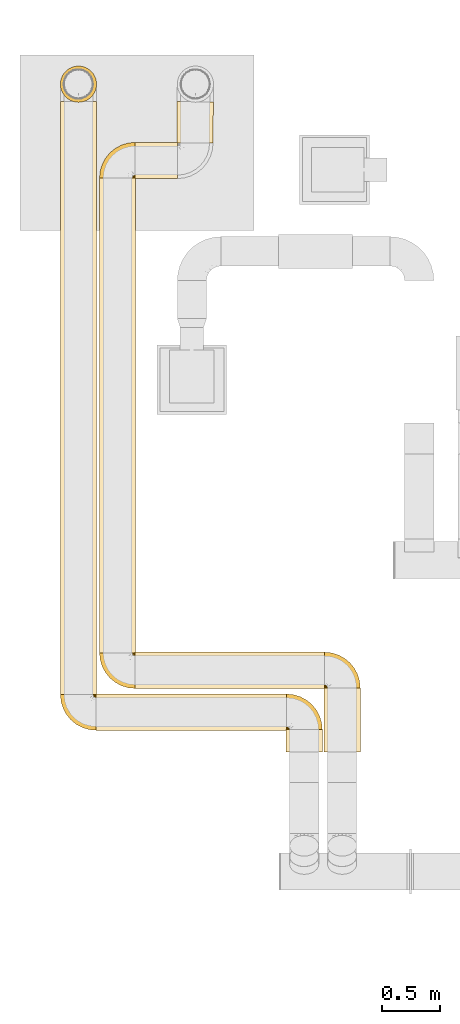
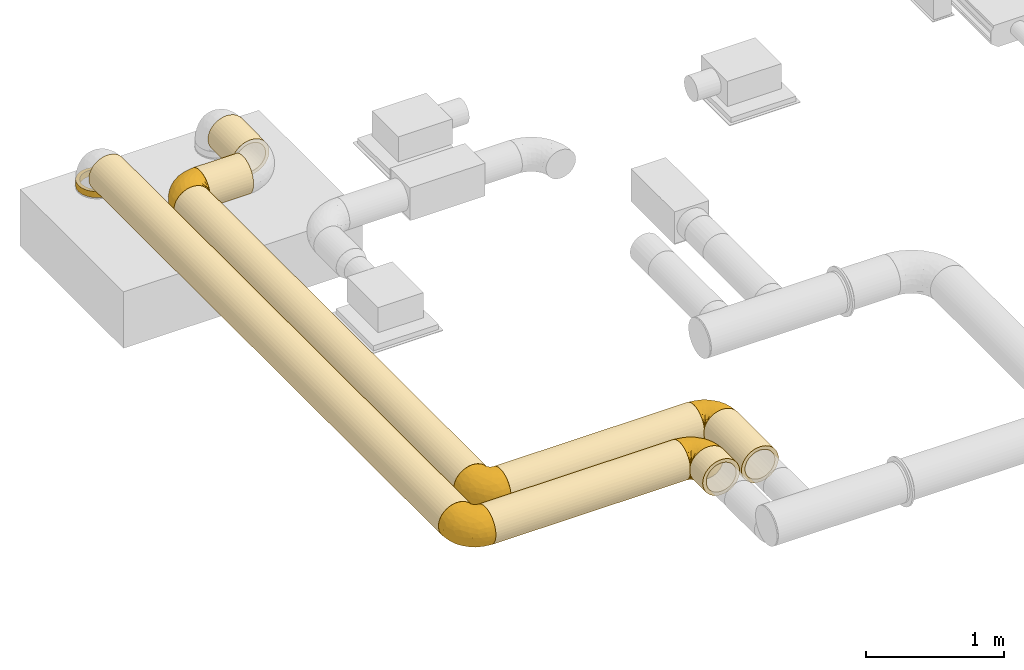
# One storey, part 1 of 36: 14 coverings.
"""IFC2X3 building model written with IfcOpenShell, lengths in millimetres."""

import ifcopenshell
import ifcopenshell.guid

model = None  # the IFC model being written
_history = None  # IfcOwnerHistory: only IFC2X3 demands one
_inside = {}  # id of a spatial element -> (the spatial element, [elements in it])
_under = {}  # id of a project, library or spatial element -> (it, [spatial elements below it])
_declared = {}  # id of a project -> (the project, [libraries it declares])
_typed = {}  # id of a type object -> (the type object, [elements of that type])
_made_of = {}  # id of a material, layer set ... -> (it, [elements and type objects made of it])


def new_model(schema):
    """Start an empty IFC model of exactly this schema.

    Asked for "IFC4X3", IfcOpenShell would pick the latest addendum, in which some entities
    have other attributes; the version numbers below select the first issue.
    IFC2X3 requires an IfcOwnerHistory on every rooted entity: one is made here for all.
    """
    global model, _history
    if schema == "IFC4X3":
        model = ifcopenshell.file(schema_version=(4, 3, 0, 0))
    else:
        model = ifcopenshell.file(schema=schema)
    _inside.clear()
    _under.clear()
    _declared.clear()
    _typed.clear()
    _made_of.clear()
    _history = None
    if model.schema == "IFC2X3":
        org = make("IfcOrganization", Name="unknown")
        user = make(
            "IfcPersonAndOrganization",
            ThePerson=make("IfcPerson", FamilyName="unknown"),
            TheOrganization=org,
        )
        app = make(
            "IfcApplication",
            ApplicationDeveloper=org,
            Version="unknown",
            ApplicationFullName="unknown",
            ApplicationIdentifier="unknown",
        )
        _history = make(
            "IfcOwnerHistory",
            OwningUser=user,
            OwningApplication=app,
            ChangeAction="ADDED",
            CreationDate=0,
        )
    return model


def make(cls, **values):
    """One entity of the class cls with the attributes given. An attribute that is None is left unset."""
    return model.create_entity(
        cls, **{name: value for name, value in values.items() if value is not None}
    )


def entity(cls, *values):
    """Any entity or typed value of the class cls, its attributes in the order of the schema. None: left unset."""
    e = model.create_entity(cls)
    for i, value in enumerate(values):
        if value is not None:
            e[i] = value
    return e


def rooted(cls, **values):
    """An entity with a GlobalId (a new one), such as an element, a storey or a relation."""
    return make(cls, GlobalId=ifcopenshell.guid.new(), OwnerHistory=_history, **values)


def si_unit(unit_type, name, prefix=None):
    """IfcSIUnit, for example si_unit("LENGTHUNIT", "METRE", prefix="MILLI")."""
    return make("IfcSIUnit", UnitType=unit_type, Prefix=prefix, Name=name)


def converted_unit(unit_type, name, factor, base, dimensions=None, offset=None):
    """IfcConversionBasedUnit, such as the inch: factor (a typed value) times the base unit."""
    return make(
        "IfcConversionBasedUnit"
        if offset is None
        else "IfcConversionBasedUnitWithOffset",
        ConversionOffset=offset,
        Dimensions=None
        if dimensions is None
        else entity("IfcDimensionalExponents", *dimensions),
        UnitType=unit_type,
        Name=name,
        ConversionFactor=make(
            "IfcMeasureWithUnit", ValueComponent=factor, UnitComponent=base
        ),
    )


def derived_unit(unit_type, elements):
    """IfcDerivedUnit: a product of units, each with its exponent."""
    return make(
        "IfcDerivedUnit",
        Elements=[
            make("IfcDerivedUnitElement", Unit=unit, Exponent=power)
            for unit, power in elements
        ],
        UnitType=unit_type,
    )


def assignment(units):
    """IfcUnitAssignment: the units of a project."""
    return None if units is None else make("IfcUnitAssignment", Units=units)


def point(xyz):
    """IfcCartesianPoint."""
    return None if xyz is None else make("IfcCartesianPoint", Coordinates=xyz)


def direction(xyz):
    """IfcDirection."""
    return None if xyz is None else make("IfcDirection", DirectionRatios=xyz)


def frame(location, z_axis=None, x_axis=None):
    """IfcAxis2Placement3D, a coordinate frame: its origin and axes. An axis left out is left unset."""
    return make(
        "IfcAxis2Placement3D",
        Location=point(location),
        Axis=direction(z_axis),
        RefDirection=direction(x_axis),
    )


def frame_2d(location, x_axis=None):
    """IfcAxis2Placement2D, a coordinate frame in the plane: its origin and x axis."""
    return make(
        "IfcAxis2Placement2D", Location=point(location), RefDirection=direction(x_axis)
    )


def origin_with_axes():
    """The frame at (0, 0, 0) with the z axis (0, 0, 1) and the x axis (1, 0, 0) written out."""
    return frame((0.0, 0.0, 0.0), z_axis=(0.0, 0.0, 1.0), x_axis=(1.0, 0.0, 0.0))


def origin_2d_with_axis():
    """The frame at (0, 0) in the plane with the x axis (1, 0) written out."""
    return frame_2d((0.0, 0.0), x_axis=(1.0, 0.0))


def place(relative_to, where):
    """IfcLocalPlacement: puts the frame where relative to a parent placement (None: the world)."""
    return make(
        "IfcLocalPlacement", PlacementRelTo=relative_to, RelativePlacement=where
    )


def context(
    kind, dimensions, precision=None, world=None, true_north=None, identifier=None
):
    """IfcGeometricRepresentationContext, for example the 3D "Model" context."""
    return make(
        "IfcGeometricRepresentationContext",
        ContextIdentifier=identifier,
        ContextType=kind,
        CoordinateSpaceDimension=dimensions,
        Precision=precision,
        WorldCoordinateSystem=world,
        TrueNorth=true_north,
    )


def subcontext(parent, identifier, kind, view, scale=None):
    """IfcGeometricRepresentationSubContext, for example "Body" below "Model"."""
    return make(
        "IfcGeometricRepresentationSubContext",
        ContextIdentifier=identifier,
        ContextType=kind,
        ParentContext=parent,
        TargetScale=scale,
        TargetView=view,
    )


def project(units=None, contexts=None):
    """IfcProject with its units and contexts."""
    return rooted(
        "IfcProject",
        Name="project",
        RepresentationContexts=contexts,
        UnitsInContext=assignment(units),
    )


def spatial(cls, under=None, at=None, **own):
    """A site, building, storey or space (cls), placed at a placement, below another one or the project."""
    s = rooted(cls, ObjectPlacement=at, **own)
    if under is not None:
        _under.setdefault(under.id(), (under, []))[1].append(s)
    return s


def profile(cls, at=None, kind="AREA", **sizes):
    """A parametric profile (cls). Its sizes go by their IFC names, for example OverallWidth=200.0."""
    return make(cls, ProfileType=kind, Position=at, **sizes)


def hollow_circle(**sizes):
    """IfcCircleHollowProfileDef."""
    return profile("IfcCircleHollowProfileDef", **sizes)


def extrude(swept, where, along, depth):
    """IfcExtrudedAreaSolid: the profile swept, set in the frame where, extruded along a direction by depth."""
    return make(
        "IfcExtrudedAreaSolid",
        SweptArea=swept,
        Position=where,
        ExtrudedDirection=direction(along),
        Depth=depth,
    )


def faces_of(points, faces, orient=None, outer=None):
    """IfcFace entities. A face is a list of loops; a loop is a list of indices into points, from 0.

    orient and outer hold one flag for each loop. By default every Orientation is true, the
    first loop of a face is its IfcFaceOuterBound and the others are IfcFaceBound.
    """
    made = []
    for i, loops in enumerate(faces):
        bounds = []
        for j, loop in enumerate(loops):
            is_outer = j == 0 if outer is None else outer[i][j]
            bounds.append(
                make(
                    "IfcFaceOuterBound" if is_outer else "IfcFaceBound",
                    Bound=make("IfcPolyLoop", Polygon=[points[k] for k in loop]),
                    Orientation=True if orient is None else orient[i][j],
                )
            )
        made.append(make("IfcFace", Bounds=bounds))
    return made


def open_shell(faces, orient=None, outer=None):
    """The faces of one IfcOpenShell. surface_model builds it on its shared points."""
    return ("IfcOpenShell", faces, orient, outer)


def surface_model(cls, points, shells):
    """IfcFaceBasedSurfaceModel or IfcShellBasedSurfaceModel (cls): surfaces that need not close."""
    shared = [point(p) for p in points]
    made = [make(c, CfsFaces=faces_of(shared, fs, o, b)) for c, fs, o, b in shells]
    if cls == "IfcFaceBasedSurfaceModel":
        return make(cls, FbsmFaces=made)
    return make(cls, SbsmBoundary=made)


def shape(context_of_items, identifier, shape_type, items):
    """IfcShapeRepresentation: the items that make up one representation, for example the "Body"."""
    return make(
        "IfcShapeRepresentation",
        ContextOfItems=context_of_items,
        RepresentationIdentifier=identifier,
        RepresentationType=shape_type,
        Items=items,
    )


def source(mapping_origin, context_of_items, identifier, shape_type, items):
    """IfcRepresentationMap: a shape defined once, which mapped items show again and again."""
    return make(
        "IfcRepresentationMap",
        MappingOrigin=mapping_origin,
        MappedRepresentation=shape(context_of_items, identifier, shape_type, items),
    )


def transform(
    local_origin,
    x_axis=None,
    y_axis=None,
    z_axis=None,
    scale=None,
    scale2=None,
    scale3=None,
    uniform=True,
):
    """IfcCartesianTransformationOperator3D, or its non-uniform kind. x_axis, y_axis, z_axis: its Axis1, 2, 3."""
    if uniform:
        return make(
            "IfcCartesianTransformationOperator3D",
            Axis1=direction(x_axis),
            Axis2=direction(y_axis),
            LocalOrigin=point(local_origin),
            Scale=scale,
            Axis3=direction(z_axis),
        )
    return make(
        "IfcCartesianTransformationOperator3DnonUniform",
        Axis1=direction(x_axis),
        Axis2=direction(y_axis),
        LocalOrigin=point(local_origin),
        Scale=scale,
        Axis3=direction(z_axis),
        Scale2=scale2,
        Scale3=scale3,
    )


def mapped(mapping_source, mapping_target):
    """IfcMappedItem: shows the shape of a source again, moved by a transform."""
    return make(
        "IfcMappedItem", MappingSource=mapping_source, MappingTarget=mapping_target
    )


def made_of(thing, what):
    """Note that an element or type object is made of a material, layer set ...; save() writes the relation."""
    if what is not None:
        _made_of.setdefault(what.id(), (what, []))[1].append(thing)
    return thing


def element(
    cls,
    number,
    at=None,
    inside=None,
    cuts=None,
    type_object=None,
    material=None,
    context=None,
    identifier="Body",
    shape_type=None,
    held_by="IfcProductDefinitionShape",
    body=None,
    shapes=None,
    **own,
):
    """One element of the class cls, such as IfcWall. Its Tag is "e" and its number.

    at: its placement. inside: the storey or other place that contains it. cuts: it is an
    opening in that element (IfcRelVoidsElement). A single representation is given by context,
    identifier, shape_type and body (its items); several are given by shapes. held_by: the class
    of the entity that holds the representations. save() writes the other relations.
    """
    e = rooted(cls, Tag="e%d" % number, ObjectPlacement=at, **own)
    if body is not None:
        shapes = [shape(context, identifier, shape_type, body)]
    if shapes is not None:
        e.Representation = make(held_by, Representations=shapes)
    if inside is not None:
        _inside.setdefault(inside.id(), (inside, []))[1].append(e)
    if cuts is not None:
        rooted(
            "IfcRelVoidsElement", RelatingBuildingElement=cuts, RelatedOpeningElement=e
        )
    if type_object is not None:
        _typed.setdefault(type_object.id(), (type_object, []))[1].append(e)
    return made_of(e, material)


def aggregate(whole, parts):
    """IfcRelAggregates: a whole, such as a stair, and the parts it consists of."""
    return rooted("IfcRelAggregates", RelatingObject=whole, RelatedObjects=parts)


def save(model, path):
    """Write the relations noted so far, then the file.

    IfcRelAggregates (storeys below a building ...), IfcRelContainedInSpatialStructure (elements
    in a storey), IfcRelDefinesByType, IfcRelAssociatesMaterial and IfcRelDeclares: one each for
    every whole, place, type object, material and project.
    """
    for whole, parts in _under.values():
        aggregate(whole, parts)
    for where, things in _inside.values():
        rooted(
            "IfcRelContainedInSpatialStructure",
            RelatedElements=things,
            RelatingStructure=where,
        )
    for kind, things in _typed.values():
        rooted("IfcRelDefinesByType", RelatedObjects=things, RelatingType=kind)
    for what, things in _made_of.values():
        rooted("IfcRelAssociatesMaterial", RelatedObjects=things, RelatingMaterial=what)
    for by, libraries in _declared.values():
        rooted("IfcRelDeclares", RelatingContext=by, RelatedDefinitions=libraries)
    model.write(path)


model = new_model("IFC2X3")

# Units and contexts
model_context = context("Model", 3, precision=0.01, world=frame((0.0, 4.29681676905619e-09, 0.0)), true_north=direction((4.01073788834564e-13, 1.0)))
plan_context = context("Plan", 3, precision=0.01, world=frame((0.0, 4.29681676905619e-09, 0.0)), true_north=direction((4.01073788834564e-13, 1.0)))
body_context = subcontext(model_context, "Body", "Model", "MODEL_VIEW")
ifc_project = project(units=[converted_unit("PLANEANGLEUNIT", "DEGREE", entity("IfcPositiveLengthMeasure", 0.0174532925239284), si_unit("PLANEANGLEUNIT", "RADIAN"), dimensions=[0, 0, 0, 0, 0, 0, 0]), si_unit("AREAUNIT", "SQUARE_METRE"), si_unit("LENGTHUNIT", "METRE", prefix="MILLI"), si_unit("MASSUNIT", "GRAM", prefix="KILO"), si_unit("POWERUNIT", "WATT"), si_unit("PRESSUREUNIT", "PASCAL"), si_unit("FORCEUNIT", "NEWTON", prefix="KILO"), si_unit("ELECTRICCURRENTUNIT", "AMPERE"), si_unit("THERMODYNAMICTEMPERATUREUNIT", "DEGREE_CELSIUS"), si_unit("TIMEUNIT", "SECOND"), si_unit("VOLUMEUNIT", "CUBIC_METRE"), derived_unit("LINEARVELOCITYUNIT", [(si_unit("LENGTHUNIT", "METRE"), 1), (si_unit("TIMEUNIT", "SECOND"), -1)]), derived_unit("VOLUMETRICFLOWRATEUNIT", [(si_unit("VOLUMEUNIT", "CUBIC_METRE"), 1), (si_unit("TIMEUNIT", "SECOND"), -1)]), derived_unit("THERMALTRANSMITTANCEUNIT", [(si_unit("POWERUNIT", "WATT"), 1), (si_unit("THERMODYNAMICTEMPERATUREUNIT", "KELVIN"), -1), (si_unit("AREAUNIT", "SQUARE_METRE"), -1)])], contexts=[model_context, plan_context])

# Site, building, storey
site_placement = place(None, frame((0.0, -4.29681676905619e-09, 0.0), z_axis=(0.0, 0.0, 1.0), x_axis=(1.0, 0.0, 0.0)))
site = spatial("IfcSite", under=ifc_project, at=site_placement, CompositionType="ELEMENT")
building_placement = place(site_placement, frame((0.0, 4.29681676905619e-09, 0.0), z_axis=(0.0, 0.0, 1.0), x_axis=(1.0, 0.0, 0.0)))
building = spatial("IfcBuilding", under=site, at=building_placement, Name="mc-building", CompositionType="ELEMENT")
storey_placement = place(building_placement, frame((0.0, 0.0, 204000.0), z_axis=(0.0, 0.0, 1.0), x_axis=(1.0, 0.0, 0.0)))
storey = spatial("IfcBuildingStorey", under=building, at=storey_placement, Name="Nivå D", CompositionType="ELEMENT", Elevation=204000.0)

# Coverings
shared_shape_1 = source(origin_with_axes(), body_context, "Body", "SweptSolid", [
    extrude(hollow_circle(Radius=155.0, WallThickness=30.0, at=origin_2d_with_axis()), frame((0.0, 0.0, 0.0), z_axis=(1.0, 0.0, 0.0), x_axis=(0.0, 1.0, 0.0)), (0.0, 0.0, 1.0), 188.7),
])
covering_1_placement = place(storey_placement, frame((516507.72088, 414756.25, 2614.0), z_axis=(0.0, 0.0, 1.0), x_axis=(0.0, 1.0, 0.0)))
element("IfcCovering", 1, at=covering_1_placement, inside=storey, Name="EI60-30", PredefinedType="INSULATION", context=body_context, shape_type="MappedRepresentation", body=[
    mapped(shared_shape_1, transform((0.0, 0.0, 0.0), scale=1.0)),
])
shared_shape_2 = source(origin_with_axes(), body_context, "Body", "SweptSolid", [
    extrude(hollow_circle(Radius=155.0, WallThickness=30.0, at=origin_2d_with_axis()), frame((0.0, 0.0, 0.0), z_axis=(1.0, 0.0, 0.0), x_axis=(0.0, 1.0, 0.0)), (0.0, 0.0, 1.0), 1630.2),
])
covering_2_placement = place(storey_placement, frame((516357.72088, 415095.0, 2614.0), z_axis=(0.0, 0.0, 1.0), x_axis=(-1.0, 0.0, 0.0)))
element("IfcCovering", 2, at=covering_2_placement, inside=storey, Name="EI60-30", PredefinedType="INSULATION", context=body_context, shape_type="MappedRepresentation", body=[
    mapped(shared_shape_2, transform((0.0, 0.0, 0.0), scale=1.0)),
])
shared_shape_3 = source(origin_with_axes(), body_context, "Body", "SurfaceModel", [
    surface_model("IfcShellBasedSurfaceModel", [(118.73529, 150.0, 99.63399), (134.23266, 150.0, 77.50222), (145.65278, 150.0, 53.01196), (-20.18853, 150.0, 153.67961), (0.0, 150.0, 155.0), (-40.0315, 150.0, 149.74138), (-134.05246, 150.0, 77.81348), (-149.602, 150.0, 40.54927), (-143.04559, 150.0, 59.69053), (-149.602, 150.0, -40.54927), (152.6459, 150.0, 26.91148), (155.0, 150.0, 0.0), (99.63399, 150.0, -118.73529), (77.50222, 150.0, -134.23266), (53.01196, 150.0, -145.65278), (26.91148, 150.0, -152.6459), (0.0, 150.0, -155.0), (-94.1823, 150.0, -123.1044), (-109.41224, 150.0, -109.79054), (-122.77862, 150.0, -94.6066), (-134.05394, 150.0, -77.81094), (-143.0461, 150.0, -59.68929), (-150.0, 149.602, -40.54927), (-150.0, 149.602, 40.54927), (-149.71857, 149.71857, 40.54927), (-149.71857, 149.71857, -40.54927), (-122.0938, 63.58605, -143.25267), (-150.0, 77.34484, -134.3234), (-136.20073, 95.91287, -123.10592), (-137.47708, 125.83029, -94.60648), (-147.1653, 140.01208, -67.31958), (-145.05359, 140.9526, -67.17187), (-150.0, 134.05448, -77.80999), (-149.94253, 149.6258, -40.54927), (-80.29961, 51.39737, -152.21515), (-103.44954, 37.61727, -152.38384), (-94.99005, 78.30964, -143.06822), (-150.0, 109.41143, -109.79135), (-55.95077, 115.20609, -146.80879), (-89.48176, 101.66012, -136.97501), (-88.82525, 121.39611, -131.24017), (-111.53741, 121.30822, -116.69619), (-144.09591, 123.4267, -94.60648), (-150.0, 40.03045, -149.74166), (-127.29873, 29.80052, -152.50922), (-150.0, 0.0, -155.0), (-75.0, 20.09619, -155.0), (-118.1798, 139.03454, -102.41686), (-118.92581, 90.55276, -130.95454), (-59.19573, 150.0, -143.25106), (-70.00847, 133.96789, -139.08278), (-77.34799, 150.0, -134.32159), (-61.94591, 82.43371, -150.01067), (-20.09619, 75.0, -155.0), (-43.93398, 43.93398, -155.0), (-149.68409, 149.80181, -40.54927), (-149.6496, 149.88506, -40.54927), (-132.32871, 142.03789, -83.45054), (-31.66904, 101.56483, -153.41062), (-136.84157, 146.59806, -73.60439), (-96.60055, 136.76109, -122.48696), (-32.51292, 126.45276, -152.03415), (-5.11113, 111.17714, -155.0), (-20.18986, 150.0, -153.67945), (-40.03434, 150.0, -149.74061), (-111.17714, 5.11113, -155.0), (-137.03744, 135.04293, -84.08924), (-122.88609, 116.1525, -112.49311), (-136.26737, 140.44841, -79.14233), (-131.29438, 108.39556, -114.58186), (-106.70969, 100.42277, -130.1473), (-149.85928, 149.66028, -40.54927), (-149.78892, 149.68943, -40.54927), (-81.04119, -16.4813, -152.02986), (-116.18378, -26.02376, -152.21653), (131.78325, 33.28155, 0.0), (141.04553, 78.41765, -40.11476), (149.13951, 90.49746, 0.0), (-67.24735, -127.11264, -68.1691), (-150.0, -149.7185, -40.11695), (-150.0, -134.23394, -77.5), (114.14712, 29.15563, -65.5067), (71.60067, -25.07998, -80.56368), (73.38458, 8.67006, -104.65045), (19.44892, -103.59823, 0.0), (0.95675, -110.7753, -33.58994), (49.11602, -77.65106, -28.03421), (-55.94132, -75.53005, -122.96977), (-107.24387, -90.58835, -122.96977), (-95.66121, -52.13969, -143.20133), (-0.20771, 35.06033, -150.06284), (-51.31739, 1.48198, -152.392), (-150.0, -77.5, -134.23394), (-150.0, -109.60155, -109.60155), (-54.64138, -41.60716, -141.15892), (152.64582, 150.0, -26.91195), (66.67312, 101.83568, -137.28255), (45.31502, 58.92276, -140.47743), (34.46684, 104.00581, -149.71919), (24.23902, -68.16086, -85.62716), (34.45369, -32.67366, -109.60181), (24.66713, 4.62395, -134.37766), (63.48014, 35.8833, -124.69436), (-79.13657, -113.61121, -94.35802), (-150.0, -155.0, 0.0), (-90.49746, -149.13951, 0.0), (37.641, -76.72836, -56.58032), (80.98557, -39.56495, -43.35542), (-33.28155, -131.78325, 0.0), (-62.91134, -137.09287, -39.00803), (-13.29658, -105.75414, -66.52793), (16.94312, 69.59641, -150.92769), (-24.95593, -12.96061, -144.75851), (118.73482, 150.0, -99.63454), (134.23249, 150.0, -77.50252), (130.97075, 88.8354, -71.44703), (94.07091, 61.55667, -109.60181), (-18.16534, -43.73064, -130.0498), (-9.76446, -69.1649, -109.00911), (65.66757, -65.66757, 0.0), (103.59823, -19.44892, 0.0), (145.65269, 150.0, -53.0122), (120.05296, 16.01657, -32.92188), (-150.0, -40.11695, -149.7185), (26.91195, 150.0, 152.64582), (-5.11113, 111.17714, 155.0), (34.46716, 104.0056, 149.7191), (-150.0, -149.7185, 40.11695), (-62.91133, -137.09289, 39.0079), (66.67351, 101.83536, 137.28232), (99.63454, 150.0, 118.73482), (77.50252, 150.0, 134.23249), (-4.6351, -113.35095, 35.80975), (-0.2077, 35.06033, 150.06284), (-20.09619, 75.0, 155.0), (-43.93398, 43.93398, 155.0), (36.16335, -79.7298, 52.90958), (-13.29652, -105.75426, 66.52764), (130.97108, 88.83573, 71.44654), (94.07163, 61.55714, 109.6013), (-92.39124, -133.99727, 66.97895), (80.98555, -39.56494, 43.3555), (141.04569, 78.41789, 40.11439), (-150.0, 0.0, 155.0), (-150.0, -40.11695, 149.7185), (-116.18307, -26.02416, 152.21643), (-42.25815, 9.58809, 152.63287), (-81.59831, -114.26067, 94.35802), (-106.87422, -81.84174, 129.07425), (-68.59042, -52.86926, 138.99578), (-109.18329, -55.29772, 143.20132), (-150.0, -77.5, 134.23394), (24.85479, 7.19063, 135.22219), (45.31512, 58.92233, 140.4773), (71.60146, -25.07914, 80.56352), (73.38472, 8.67039, 104.65052), (34.45406, -32.67402, 109.6013), (-62.50502, -78.15668, 122.96977), (-22.5047, -16.15511, 143.15239), (-77.22963, -25.6832, 149.70747), (114.14749, 29.15614, 65.50643), (63.48119, 35.88453, 124.69411), (120.0532, 16.01702, 32.92178), (-12.32249, -52.34142, 122.67654), (-150.0, -109.60155, 109.60155), (-19.74165, -84.78439, 99.91659), (26.84205, -68.68367, 82.46936), (53.0122, 150.0, 145.65269), (-75.0, 20.09619, 155.0), (-111.17714, 5.11113, 155.0), (16.94342, 69.59623, 150.92761), (-150.0, -134.23394, 77.5), (-126.9186, 42.25363, 149.80065), (-150.0, 40.03045, 149.74166), (-133.44376, 70.7605, 138.77026), (-150.0, 77.34484, 134.3234), (-80.71722, 115.52173, 136.9396), (-88.44442, 132.27863, 128.99063), (-102.56993, 126.66501, 120.78383), (-129.14296, 145.62289, 86.39583), (-122.77614, 150.0, 94.60984), (-78.97145, 57.43379, 151.37565), (-102.00586, 34.13191, 153.03779), (-149.6496, 149.88506, 40.54927), (-149.68409, 149.80181, 40.54927), (-138.49277, 144.51348, 72.02054), (-31.66714, 101.56927, 153.41064), (-62.73488, 83.03912, 149.74853), (-145.07011, 140.96969, 67.1242), (-149.85928, 149.66028, 40.54927), (-147.18207, 140.07114, 67.19209), (-79.93189, 99.563, 141.32072), (-55.94657, 115.20788, 146.80992), (-127.65846, 131.00429, 97.27617), (-138.2493, 135.6572, 82.12014), (-126.96761, 121.12603, 106.02507), (-150.0, 134.05448, 77.80999), (-150.0, 109.41143, 109.79135), (-143.89541, 123.47205, 94.60648), (-137.14121, 126.0073, 94.60648), (-133.70052, 96.61307, 123.10592), (-141.16662, 142.91589, 69.23674), (-118.67586, 137.68084, 102.42018), (-32.51047, 126.45429, 152.03457), (-149.94253, 149.6258, 40.54927), (-112.02924, 142.68426, 107.84446), (-56.66755, 133.19502, 144.85039), (-59.19195, 150.0, 143.25262), (-141.71917, 147.96851, 63.32625), (-94.17833, 150.0, 123.10745), (-77.34385, 150.0, 134.32397), (-149.6258, 149.94253, 40.54927), (-109.40886, 150.0, 109.79391), (-127.7393, 109.40375, 115.20024), (-112.88997, 97.15414, 129.33464), (-98.3972, 112.04888, 128.99063), (-89.95823, 85.78628, 142.02115), (-113.50407, 61.89104, 145.05307), (-103.07319, 76.35019, 141.76527), (-149.78892, 149.68943, 40.54927)], [open_shell([[[0, 1, 2]], [[3, 4, 5]], [[6, 7, 8]], [[9, 7, 6]], [[2, 10, 11]], [[12, 13, 14]], [[14, 15, 16]], [[17, 18, 19]], [[9, 20, 21]], [[20, 9, 19]], [[17, 19, 9]], [[22, 23, 24]], [[25, 22, 24]], [[7, 9, 24]], [[25, 24, 9]], [[26, 27, 28]], [[29, 30, 31]], [[32, 22, 33]], [[34, 35, 36]], [[27, 37, 28]], [[38, 39, 40]], [[39, 41, 40]], [[42, 37, 32]], [[43, 44, 45]], [[42, 28, 37]], [[44, 26, 35]], [[35, 34, 46]], [[19, 18, 47]], [[43, 27, 26]], [[48, 26, 28]], [[49, 50, 51]], [[52, 53, 54]], [[55, 56, 57]], [[21, 56, 9]], [[58, 52, 38]], [[59, 21, 20]], [[38, 52, 39]], [[50, 40, 60]], [[17, 60, 18]], [[51, 50, 60]], [[58, 61, 62]], [[63, 62, 61]], [[54, 34, 52]], [[40, 50, 38]], [[64, 50, 49]], [[61, 58, 38]], [[50, 64, 61]], [[65, 35, 46]], [[63, 61, 64]], [[63, 16, 62]], [[42, 30, 29]], [[19, 59, 20]], [[61, 38, 50]], [[29, 31, 66]], [[40, 47, 60]], [[66, 67, 29]], [[19, 47, 59]], [[47, 40, 41]], [[57, 41, 68]], [[67, 48, 69]], [[41, 67, 66]], [[56, 59, 57]], [[62, 53, 58]], [[52, 58, 53]], [[52, 36, 39]], [[70, 39, 36]], [[33, 30, 32]], [[42, 29, 69]], [[30, 33, 71]], [[30, 71, 31]], [[32, 30, 42]], [[66, 72, 25]], [[66, 25, 68]], [[31, 72, 66]], [[41, 66, 68]], [[70, 41, 39]], [[48, 36, 26]], [[44, 35, 65]], [[36, 35, 26]], [[52, 34, 36]], [[54, 46, 34]], [[31, 71, 72]], [[69, 48, 28]], [[70, 48, 67]], [[45, 44, 65]], [[26, 44, 43]], [[18, 60, 47]], [[51, 60, 17]], [[68, 25, 55]], [[21, 59, 56]], [[57, 59, 47]], [[48, 70, 36]], [[41, 70, 67]], [[42, 69, 28]], [[67, 69, 29]], [[41, 57, 47]], [[55, 57, 68]], [[46, 73, 65]], [[74, 45, 65]], [[75, 76, 77]], [[78, 79, 80]], [[81, 82, 83]], [[84, 85, 86]], [[87, 88, 89]], [[54, 90, 91]], [[92, 88, 93]], [[73, 91, 94]], [[95, 77, 76]], [[96, 97, 98]], [[82, 99, 100]], [[101, 97, 102]], [[80, 103, 78]], [[104, 79, 105]], [[86, 106, 107]], [[80, 93, 103]], [[108, 105, 109]], [[106, 85, 110]], [[97, 90, 111]], [[107, 82, 81]], [[108, 109, 85]], [[101, 112, 90]], [[97, 111, 98]], [[109, 78, 110]], [[113, 114, 115]], [[105, 79, 109]], [[15, 14, 98]], [[116, 12, 113]], [[100, 117, 101]], [[14, 13, 96]], [[62, 15, 98]], [[14, 96, 98]], [[93, 88, 103]], [[15, 62, 16]], [[103, 87, 118]], [[117, 94, 112]], [[119, 107, 120]], [[76, 115, 121]], [[90, 54, 53]], [[122, 76, 75]], [[76, 121, 95]], [[92, 123, 89]], [[116, 113, 115]], [[96, 12, 116]], [[95, 11, 77]], [[122, 120, 107]], [[118, 100, 99]], [[81, 115, 76]], [[76, 122, 81]], [[73, 74, 65]], [[91, 90, 112]], [[62, 98, 111]], [[83, 102, 116]], [[101, 90, 97]], [[117, 100, 118]], [[91, 73, 46]], [[74, 89, 123]], [[99, 106, 110]], [[83, 82, 100]], [[106, 82, 107]], [[110, 103, 118]], [[118, 99, 110]], [[117, 118, 87]], [[94, 87, 89]], [[101, 117, 112]], [[87, 94, 117]], [[73, 94, 89]], [[82, 106, 99]], [[107, 119, 86]], [[108, 85, 84]], [[109, 110, 85]], [[84, 86, 119]], [[85, 106, 86]], [[120, 122, 75]], [[107, 81, 122]], [[89, 74, 73]], [[45, 74, 123]], [[12, 96, 13]], [[102, 96, 116]], [[116, 115, 81]], [[121, 115, 114]], [[89, 88, 92]], [[103, 88, 87]], [[102, 100, 101]], [[81, 83, 116]], [[102, 83, 100]], [[96, 102, 97]], [[54, 91, 46]], [[94, 91, 112]], [[90, 53, 111]], [[62, 111, 53]], [[78, 109, 79]], [[103, 110, 78]], [[124, 125, 126]], [[127, 104, 105]], [[108, 128, 105]], [[129, 130, 131]], [[108, 84, 132]], [[133, 134, 135]], [[136, 137, 132]], [[138, 0, 139]], [[140, 127, 128]], [[119, 141, 136]], [[77, 10, 142]], [[141, 119, 120]], [[143, 144, 145]], [[146, 133, 135]], [[137, 147, 140]], [[148, 149, 150]], [[150, 144, 151]], [[152, 153, 133]], [[154, 136, 141]], [[154, 155, 156]], [[148, 147, 157]], [[158, 146, 159]], [[154, 141, 160]], [[156, 161, 152]], [[162, 120, 75]], [[163, 152, 158]], [[142, 75, 77]], [[164, 147, 148]], [[163, 157, 165]], [[10, 2, 142]], [[166, 136, 154]], [[11, 10, 77]], [[129, 131, 167]], [[160, 142, 138]], [[168, 169, 159]], [[2, 1, 138]], [[149, 159, 150]], [[139, 0, 130]], [[153, 126, 170]], [[135, 168, 146]], [[170, 125, 134]], [[153, 170, 133]], [[126, 129, 167]], [[139, 160, 138]], [[167, 124, 126]], [[165, 157, 147]], [[4, 125, 124]], [[164, 171, 147]], [[142, 160, 162]], [[126, 153, 129]], [[150, 145, 144]], [[127, 105, 128]], [[140, 147, 171]], [[142, 162, 75]], [[165, 147, 137]], [[152, 133, 158]], [[156, 155, 161]], [[148, 150, 151]], [[145, 159, 169]], [[166, 165, 137]], [[163, 165, 156]], [[152, 163, 156]], [[149, 163, 158]], [[155, 160, 139]], [[156, 165, 166]], [[160, 141, 162]], [[120, 162, 141]], [[166, 137, 136]], [[156, 166, 154]], [[132, 137, 128]], [[119, 136, 84]], [[108, 132, 128]], [[84, 136, 132]], [[2, 138, 142]], [[138, 1, 0]], [[161, 129, 153]], [[130, 129, 139]], [[159, 145, 150]], [[143, 145, 169]], [[159, 146, 168]], [[133, 146, 158]], [[163, 149, 157]], [[158, 159, 149]], [[160, 155, 154]], [[155, 139, 161]], [[129, 161, 139]], [[152, 161, 153]], [[164, 148, 151]], [[149, 148, 157]], [[125, 170, 126]], [[134, 133, 170]], [[127, 140, 171]], [[137, 140, 128]], [[143, 169, 172]], [[173, 174, 175]], [[176, 177, 178]], [[179, 180, 6]], [[181, 168, 135]], [[168, 182, 169]], [[183, 184, 185]], [[186, 187, 134]], [[188, 189, 190]], [[191, 192, 176]], [[193, 194, 195]], [[196, 197, 198]], [[169, 182, 172]], [[188, 199, 194]], [[172, 174, 173]], [[200, 197, 175]], [[193, 201, 194]], [[202, 179, 185]], [[203, 186, 125]], [[196, 204, 23]], [[125, 4, 3]], [[178, 177, 202]], [[205, 180, 179]], [[206, 5, 207]], [[189, 204, 190]], [[6, 8, 208]], [[209, 177, 210]], [[5, 206, 203]], [[187, 135, 134]], [[192, 203, 206]], [[8, 7, 211]], [[205, 209, 212]], [[208, 185, 179]], [[205, 212, 180]], [[206, 210, 177]], [[195, 213, 214]], [[181, 135, 187]], [[215, 178, 193]], [[208, 8, 211]], [[205, 179, 202]], [[186, 203, 192]], [[5, 203, 3]], [[125, 3, 203]], [[193, 202, 185]], [[216, 181, 187]], [[200, 217, 218]], [[200, 213, 198]], [[216, 215, 214]], [[182, 181, 217]], [[218, 181, 216]], [[215, 193, 195]], [[200, 198, 197]], [[190, 196, 198]], [[187, 186, 192]], [[134, 125, 186]], [[199, 188, 190]], [[196, 190, 204]], [[199, 190, 198]], [[199, 195, 194]], [[194, 219, 188]], [[201, 193, 185]], [[202, 177, 205]], [[185, 184, 201]], [[24, 194, 201]], [[213, 195, 199]], [[24, 201, 184]], [[215, 195, 214]], [[198, 213, 199]], [[200, 214, 213]], [[219, 194, 24]], [[219, 189, 188]], [[209, 205, 177]], [[210, 206, 207]], [[177, 192, 206]], [[216, 187, 191]], [[218, 216, 214]], [[181, 182, 168]], [[172, 182, 217]], [[172, 217, 174]], [[172, 173, 143]], [[217, 200, 174]], [[200, 175, 174]], [[200, 218, 214]], [[181, 218, 217]], [[193, 178, 202]], [[176, 178, 215]], [[191, 176, 215]], [[177, 176, 192]], [[216, 191, 215]], [[192, 191, 187]], [[208, 211, 183]], [[185, 208, 183]], [[208, 179, 6]], [[180, 212, 6]], [[9, 6, 212]], [[16, 9, 14]], [[63, 64, 49]], [[144, 164, 151]], [[167, 131, 124]], [[4, 124, 131]], [[131, 0, 4]], [[0, 9, 5]], [[0, 5, 4]], [[130, 0, 131]], [[2, 9, 0]], [[209, 5, 9]], [[5, 210, 207]], [[210, 5, 209]], [[209, 9, 212]], [[2, 95, 12]], [[12, 95, 114]], [[114, 95, 121]], [[12, 114, 113]], [[12, 14, 9]], [[2, 12, 9]], [[17, 49, 51]], [[17, 9, 49]], [[9, 16, 49]], [[16, 63, 49]], [[95, 2, 11]], [[22, 32, 27]], [[22, 27, 23]], [[27, 32, 37]], [[144, 143, 27]], [[196, 175, 197]], [[175, 196, 23]], [[23, 173, 175]], [[173, 23, 143]], [[23, 27, 143]], [[27, 43, 144]], [[123, 144, 45]], [[79, 123, 92]], [[93, 80, 79]], [[93, 79, 92]], [[144, 123, 79]], [[164, 144, 127]], [[164, 127, 171]], [[144, 79, 127]], [[79, 104, 127]], [[45, 144, 43]]])]),
])
for number, where, z_axis, x_axis, name in (
    (3, (516507.72088, 415095.0, 2614.0), (0.0, 0.0, 1.0), (0.0, 1.0, 0.0), "EI60-30"),
    (4, (516832.18938, 415452.77189, 2614.0), (0.0, 0.0, 1.0), (0.0, 1.0, 0.0), "EI60-30"),
    (5, (514912.18938, 415452.77189, 2614.0), (0.0, 0.0, 1.0), (0.0, -1.0, 0.0), "EI60-30"),
    (6, (514912.18938, 419812.77189, 2614.0), (0.0, 0.0, 1.0), (-1.0, 0.0, 0.0), "EI60-30"),
    (7, (514577.5, 415095.0, 2614.0), (0.0, 0.0, 1.0), (0.0, -1.0, 0.0), "EI60-30"),
):
    element("IfcCovering", number, at=place(storey_placement, frame(where, z_axis=z_axis, x_axis=x_axis)), inside=storey, Name=name, PredefinedType="INSULATION", context=body_context, shape_type="MappedRepresentation", body=[
        mapped(shared_shape_3, transform((0.0, 0.0, 0.0), scale=1.0)),
    ])
shared_shape_4 = source(origin_with_axes(), body_context, "Body", "SweptSolid", [
    extrude(hollow_circle(Radius=155.0, WallThickness=30.0, at=origin_2d_with_axis()), frame((0.0, 0.0, 0.0), z_axis=(1.0, 0.0, 0.0), x_axis=(0.0, 1.0, 0.0)), (0.0, 0.0, 1.0), 546.5),
])
covering_3_placement = place(storey_placement, frame((516832.18938, 414756.25, 2614.0), z_axis=(0.0, 0.0, 1.0), x_axis=(0.0, 1.0, 0.0)))
element("IfcCovering", 8, at=covering_3_placement, inside=storey, Name="EI60-30", PredefinedType="INSULATION", context=body_context, shape_type="MappedRepresentation", body=[
    mapped(shared_shape_4, transform((0.0, 0.0, 0.0), scale=1.0)),
])
shared_shape_5 = source(origin_with_axes(), body_context, "Body", "SweptSolid", [
    extrude(hollow_circle(Radius=155.0, WallThickness=30.0, at=origin_2d_with_axis()), frame((0.0, 0.0, 0.0), z_axis=(1.0, 0.0, 0.0), x_axis=(0.0, 1.0, 0.0)), (0.0, 0.0, 1.0), 1620.0),
])
covering_4_placement = place(storey_placement, frame((516682.18938, 415452.77189, 2614.0), z_axis=(0.0, 0.0, 1.0), x_axis=(-1.0, 0.0, 0.0)))
element("IfcCovering", 9, at=covering_4_placement, inside=storey, Name="EI60-30", PredefinedType="INSULATION", context=body_context, shape_type="MappedRepresentation", body=[
    mapped(shared_shape_5, transform((0.0, 0.0, 0.0), scale=1.0)),
])
shared_shape_6 = source(origin_with_axes(), body_context, "Body", "SweptSolid", [
    extrude(hollow_circle(Radius=155.0, WallThickness=30.0, at=origin_2d_with_axis()), frame((0.0, 0.0, 0.0), z_axis=(1.0, 0.0, 0.0), x_axis=(0.0, 1.0, 0.0)), (0.0, 0.0, 1.0), 4060.0),
])
covering_5_placement = place(storey_placement, frame((514912.18938, 415602.77189, 2614.0), z_axis=(0.0, 0.0, 1.0), x_axis=(0.0, 1.0, 0.0)))
element("IfcCovering", 10, at=covering_5_placement, inside=storey, Name="EI60-30", PredefinedType="INSULATION", context=body_context, shape_type="MappedRepresentation", body=[
    mapped(shared_shape_6, transform((0.0, 0.0, 0.0), scale=1.0)),
])
shared_shape_7 = source(origin_with_axes(), body_context, "Body", "SweptSolid", [
    extrude(hollow_circle(Radius=155.0, WallThickness=30.0, at=origin_2d_with_axis()), frame((0.0, 0.0, 0.0), z_axis=(1.0, 0.0, 0.0), x_axis=(0.0, 1.0, 0.0)), (0.0, 0.0, 1.0), 361.4),
])
covering_6_placement = place(storey_placement, frame((515062.18938, 419812.77189, 2614.0), z_axis=(0.0, 0.0, 1.0), x_axis=(1.0, 0.0, 0.0)))
element("IfcCovering", 11, at=covering_6_placement, inside=storey, Name="EI60-30", PredefinedType="INSULATION", context=body_context, shape_type="MappedRepresentation", body=[
    mapped(shared_shape_7, transform((0.0, 0.0, 0.0), scale=1.0)),
])
shared_shape_8 = source(origin_with_axes(), body_context, "Body", "SweptSolid", [
    extrude(hollow_circle(Radius=155.0, WallThickness=30.0, at=origin_2d_with_axis()), frame((0.0, 0.0, 0.0), z_axis=(1.0, 0.0, 0.0), x_axis=(0.0, 1.0, 0.0)), (0.0, 0.0, 1.0), 54.0),
])
covering_7_placement = place(storey_placement, frame((514577.5, 420465.19145, 2410.0), z_axis=(0.0, 1.0, 0.0), x_axis=(0.0, 0.0, 1.0)))
element("IfcCovering", 12, at=covering_7_placement, inside=storey, Name="EI60-30", PredefinedType="INSULATION", context=body_context, shape_type="MappedRepresentation", body=[
    mapped(shared_shape_8, transform((0.0, 0.0, 0.0), scale=1.0)),
])
shared_shape_9 = source(origin_with_axes(), body_context, "Body", "SweptSolid", [
    extrude(hollow_circle(Radius=155.0, WallThickness=30.0, at=origin_2d_with_axis()), frame((0.0, 0.0, 0.0), z_axis=(1.0, 0.0, 0.0), x_axis=(0.0, 1.0, 0.0)), (0.0, 0.0, 1.0), 352.4),
])
covering_8_placement = place(storey_placement, frame((515573.60115, 419962.77189, 2614.0), z_axis=(0.0, 0.0, 1.0), x_axis=(0.0063539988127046, 0.99997981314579, 0.0)))
element("IfcCovering", 13, at=covering_8_placement, inside=storey, Name="EI60-30", PredefinedType="INSULATION", context=body_context, shape_type="MappedRepresentation", body=[
    mapped(shared_shape_9, transform((0.0, 0.0, 0.0), scale=1.0)),
])
shared_shape_10 = source(origin_with_axes(), body_context, "Body", "SweptSolid", [
    extrude(hollow_circle(Radius=155.0, WallThickness=30.0, at=origin_2d_with_axis()), frame((0.0, 0.0, 0.0), z_axis=(1.0, 0.0, 0.0), x_axis=(0.0, 1.0, 0.0)), (0.0, 0.0, 1.0), 5070.2),
])
covering_9_placement = place(storey_placement, frame((514577.5, 420315.19145, 2614.0), z_axis=(0.0, 0.0, 1.0), x_axis=(0.0, -1.0, 0.0)))
element("IfcCovering", 14, at=covering_9_placement, inside=storey, Name="EI60-30", PredefinedType="INSULATION", context=body_context, shape_type="MappedRepresentation", body=[
    mapped(shared_shape_10, transform((0.0, 0.0, 0.0), scale=1.0)),
])

save(model, "model.ifc")
